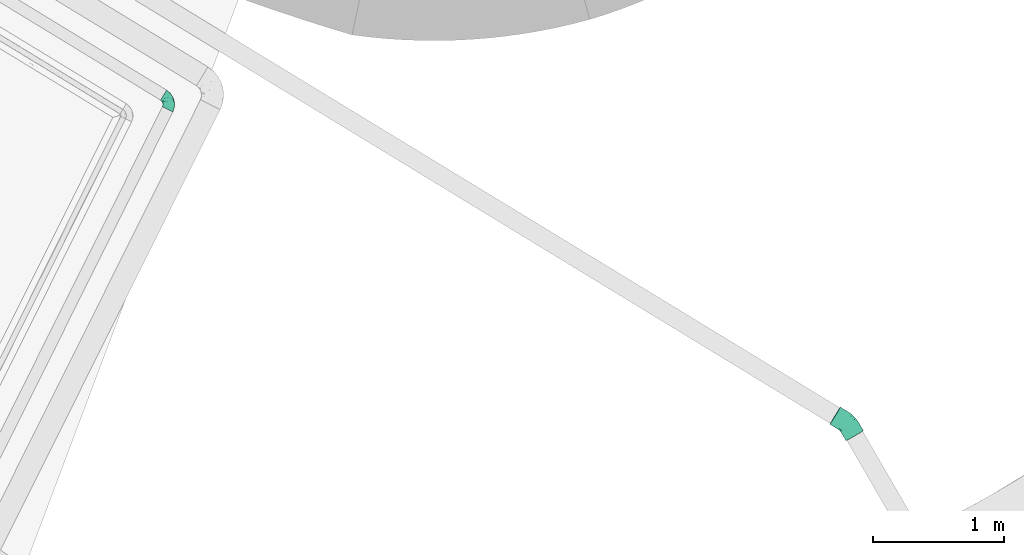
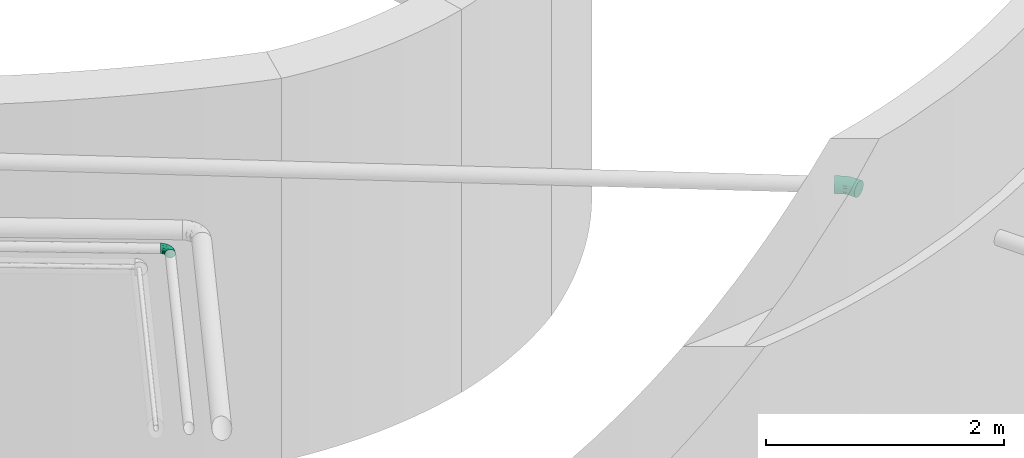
# One storey, part 41 of 47: 2 flow fittings.
"""IFC2X3 building model written with IfcOpenShell, lengths in metres."""

from ifc_helpers import new_model, entity, si_unit, converted_unit, derived_unit, direction, frame, origin, place, context, subcontext, project, spatial, faceted_brep, source, transform, mapped, type_object, type_shapes, element, save


model = new_model("IFC2X3")

# Units and contexts
model_context = context("Model", 3, precision=1e-05, world=origin(), true_north=direction((0.894925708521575, 0.446215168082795)))
context_of_model = context(None, 3, precision=1e-05, world=origin(), true_north=direction((0.894925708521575, 0.446215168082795)))
body_context = subcontext(model_context, "Body", "Model", "MODEL_VIEW")
ifc_project = project(units=[si_unit("LENGTHUNIT", "METRE"), si_unit("AREAUNIT", "SQUARE_METRE"), si_unit("VOLUMEUNIT", "CUBIC_METRE"), converted_unit("PLANEANGLEUNIT", "DEGREE", entity("IfcRatioMeasure", 0.0174532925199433), si_unit("PLANEANGLEUNIT", "RADIAN"), dimensions=[0, 0, 0, 0, 0, 0, 0]), si_unit("MASSUNIT", "GRAM", prefix="KILO"), si_unit("TIMEUNIT", "SECOND"), si_unit("FREQUENCYUNIT", "HERTZ"), si_unit("THERMODYNAMICTEMPERATUREUNIT", "DEGREE_CELSIUS"), derived_unit("THERMALTRANSMITTANCEUNIT", [(si_unit("MASSUNIT", "GRAM", prefix="KILO"), 1), (si_unit("THERMODYNAMICTEMPERATUREUNIT", "KELVIN"), -1), (si_unit("TIMEUNIT", "SECOND"), -3)]), derived_unit("VOLUMETRICFLOWRATEUNIT", [(si_unit("LENGTHUNIT", "METRE"), 3), (si_unit("TIMEUNIT", "SECOND"), -1)]), si_unit("ELECTRICCURRENTUNIT", "AMPERE"), si_unit("ELECTRICVOLTAGEUNIT", "VOLT"), si_unit("POWERUNIT", "WATT"), si_unit("FORCEUNIT", "NEWTON", prefix="KILO"), si_unit("ILLUMINANCEUNIT", "LUX"), si_unit("LUMINOUSFLUXUNIT", "LUMEN"), si_unit("LUMINOUSINTENSITYUNIT", "CANDELA"), si_unit("PRESSUREUNIT", "PASCAL")], contexts=[model_context, context_of_model])

# Site, building, storey
site_placement = place(None, frame((218.228324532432, 584.720189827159, 0.0), z_axis=(0.0, 0.0, 1.0), x_axis=(0.446215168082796, 0.894925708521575, 0.0)))
site = spatial("IfcSite", under=ifc_project, at=site_placement, Name="Default", CompositionType="ELEMENT")
building_placement = place(site_placement, origin())
building = spatial("IfcBuilding", under=site, at=building_placement, CompositionType="ELEMENT")
storey_placement = place(building_placement, frame((0.0, 0.0, 4.69)))
storey = spatial("IfcBuildingStorey", under=building, at=storey_placement, Name="1 - Piano Primo", CompositionType="ELEMENT", Elevation=4.69)

# Flow fittings
pipe_fitting_type_1 = type_object("IfcPipeFittingType", Name="Standard", PredefinedType="NOTDEFINED")
shared_shape_1 = source(origin(), body_context, "Body", "Brep", [
    faceted_brep([(-0.110478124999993, 0.019791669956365, -0.0738635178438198), (-0.110478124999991, 0.0, -0.0764691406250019), (-0.11047812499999, -0.0197916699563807, -0.0738635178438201), (-0.110478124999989, -0.0382345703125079, -0.0662242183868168), (-0.110478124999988, -0.0540718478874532, -0.0540718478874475), (-0.110478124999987, -0.0662242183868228, -0.0382345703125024), (-0.110478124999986, -0.0738635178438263, -0.0197916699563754), (-0.110478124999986, -0.0764691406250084, 0.0), (-0.110478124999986, -0.0738635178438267, 0.0197916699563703), (-0.110478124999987, -0.0662242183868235, 0.0382345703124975), (-0.110478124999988, -0.0540718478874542, 0.0540718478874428), (-0.110478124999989, -0.0382345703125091, 0.0662242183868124), (-0.11047812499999, -0.0197916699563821, 0.073863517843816), (-0.110478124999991, 0.0, 0.0764691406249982), (-0.110478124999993, 0.0197916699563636, 0.0738635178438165), (-0.110478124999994, 0.0382345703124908, 0.0662242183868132), (-0.110478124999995, 0.0540718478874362, 0.054071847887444), (-0.110478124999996, 0.0662242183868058, 0.0382345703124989), (-0.110478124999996, 0.0738635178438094, 0.0197916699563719), (-0.110478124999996, 0.0764691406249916, 0.0), (-0.110478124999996, 0.0738635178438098, -0.0197916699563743), (-0.110478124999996, 0.0662242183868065, -0.0382345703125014), (-0.110478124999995, 0.0540718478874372, -0.0540718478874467), (-0.110478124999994, 0.0382345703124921, -0.0662242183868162), (-0.0365281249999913, -0.0738635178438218, 0.0197916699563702), (-0.0365281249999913, -0.0662242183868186, 0.0382345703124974), (-0.0365281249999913, -0.0764691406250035, 0.0), (-0.0365281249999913, -0.0540718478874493, 0.0540718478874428), (-0.0365281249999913, -0.0382345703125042, 0.0662242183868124), (-0.0365281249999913, -0.0197916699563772, 0.073863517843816), (-0.0365281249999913, 0.0, 0.0764691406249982), (-0.0365281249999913, 0.0197916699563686, 0.0738635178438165), (-0.0365281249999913, 0.0382345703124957, 0.0662242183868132), (-0.0365281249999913, 0.0540718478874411, 0.054071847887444), (-0.0365281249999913, 0.0662242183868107, 0.0382345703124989), (-0.0365281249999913, 0.0738635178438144, 0.0197916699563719), (-0.0365281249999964, 0.0764691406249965, 0.0), (-0.0365281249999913, 0.0738635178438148, -0.0197916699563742), (-0.0365281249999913, 0.0662242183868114, -0.0382345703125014), (-0.0365281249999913, 0.0540718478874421, -0.0540718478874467), (-0.0365281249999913, 0.038234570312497, -0.0662242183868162), (-0.0365281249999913, 0.01979166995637, -0.0738635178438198), (-0.0365281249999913, 0.0, -0.0764691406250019), (-0.0365281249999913, -0.0197916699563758, -0.0738635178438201), (-0.0365281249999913, -0.038234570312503, -0.0662242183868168), (-0.0365281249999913, -0.0540718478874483, -0.0540718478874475), (-0.0365281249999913, -0.0662242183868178, -0.0382345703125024), (-0.0365281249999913, -0.0738635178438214, -0.0197916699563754), (-0.00564099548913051, -0.0726237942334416, 0.0157933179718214), (-0.000138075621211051, -0.073437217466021, 0.0), (0.000361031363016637, -0.0582414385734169, 0.0453266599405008), (0.0107413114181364, -0.0421761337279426, 0.0594461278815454), (0.0347092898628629, -0.0486115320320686, 0.0455822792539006), (0.0415452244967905, 9.18541766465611e-05, 0.0738635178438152), (0.0320782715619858, 0.0174725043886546, 0.0764691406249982), (0.00174528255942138, -0.00685291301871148, 0.0755764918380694), (-0.00156313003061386, -0.0270786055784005, 0.0700680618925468), (0.057942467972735, -0.0300123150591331, 0.0540718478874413), (0.0503670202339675, -0.0161043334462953, 0.066224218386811), (-0.00195628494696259, 0.0130150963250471, 0.0759940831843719), (-0.00803198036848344, 0.031537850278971, 0.0711717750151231), (0.0226113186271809, 0.0348531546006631, 0.0738635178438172), (0.0166136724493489, -0.0652341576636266, 0.026051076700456), (0.0637553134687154, -0.0406842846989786, 0.0382345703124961), (-0.0123714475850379, 0.0485769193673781, 0.0614231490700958), (-0.0159338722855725, 0.0625649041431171, 0.0474287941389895), (-0.00325287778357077, 0.0823379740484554, 0.0197916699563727), (0.00040122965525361, 0.0756292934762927, 0.0382345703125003), (-0.0200024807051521, 0.0785404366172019, 0.0), (0.0352484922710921, -0.0644250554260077, 0.0), (0.0396919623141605, -0.0610785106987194, 0.0157933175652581), (0.0686557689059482, -0.0496811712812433, 0.0), (0.067409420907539, -0.0473929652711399, 0.0197916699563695), (0.0137895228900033, 0.0510493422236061, 0.0662242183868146), (0.00621407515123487, 0.0649573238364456, 0.0540718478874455), (-0.00449922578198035, 0.0846261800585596, 0.0), (0.00174528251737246, -0.00685291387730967, -0.0755764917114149), (-0.00722864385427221, -0.0592921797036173, -0.0455822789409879), (0.0166136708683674, -0.0652341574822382, -0.0260510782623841), (0.0579424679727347, -0.0300123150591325, -0.0540718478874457), (0.0637553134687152, -0.0406842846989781, -0.0382345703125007), (0.0275415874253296, -0.051319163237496, -0.0453266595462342), (-0.00450754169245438, 0.0123653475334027, -0.0759940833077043), (-0.0159338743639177, 0.0625649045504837, -0.0474287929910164), (0.000401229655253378, 0.0756292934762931, -0.0382345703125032), (0.0320782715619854, 0.0174725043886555, -0.0764691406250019), (0.0226113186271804, 0.0348531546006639, -0.0738635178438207), (-0.0123714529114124, 0.0485769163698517, -0.0614231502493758), (0.0107413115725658, -0.0421761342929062, -0.0594461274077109), (-0.0032528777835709, 0.0823379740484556, -0.0197916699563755), (0.0415452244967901, 9.18541766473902e-05, -0.0738635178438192), (0.0503670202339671, -0.0161043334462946, -0.0662242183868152), (0.014325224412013, -0.0230321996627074, -0.0700680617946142), (-0.00803198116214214, 0.0315378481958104, -0.0711717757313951), (-0.00564099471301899, -0.0726237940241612, -0.015793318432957), (0.0674094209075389, -0.0473929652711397, -0.0197916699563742), (0.0396919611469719, -0.0610785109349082, -0.0157933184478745), (0.0137895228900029, 0.0510493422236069, -0.0662242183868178), (0.00621407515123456, 0.0649573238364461, -0.0540718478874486), (0.0711554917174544, 0.100329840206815, -0.0540718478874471), (0.0653426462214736, 0.111001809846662, -0.0382345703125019), (0.0616885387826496, 0.117710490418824, -0.0197916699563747), (0.0604421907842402, 0.119998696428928, 0.0), (0.0616885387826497, 0.117710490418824, 0.0197916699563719), (0.0653426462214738, 0.111001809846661, 0.0382345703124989), (0.0711554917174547, 0.100329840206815, 0.054071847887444), (0.0787309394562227, 0.0864218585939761, 0.0662242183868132), (0.0875527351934, 0.0702256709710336, 0.0738635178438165), (0.0970196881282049, 0.0528450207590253, 0.0764691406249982), (0.10648664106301, 0.0354643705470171, 0.073863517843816), (0.115308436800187, 0.0192681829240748, 0.0662242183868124), (0.122883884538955, 0.00536020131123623, 0.0540718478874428), (0.128696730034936, -0.00531176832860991, 0.0382345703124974), (0.132350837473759, -0.0120204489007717, 0.0197916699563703), (0.133597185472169, -0.0143086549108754, 0.0), (0.132350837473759, -0.0120204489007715, -0.019791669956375), (0.128696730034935, -0.00531176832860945, -0.038234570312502), (0.122883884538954, 0.0053602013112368, -0.0540718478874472), (0.115308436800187, 0.0192681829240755, -0.0662242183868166), (0.106486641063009, 0.0354643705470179, -0.07386351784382), (0.0970196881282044, 0.0528450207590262, -0.0764691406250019), (0.0875527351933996, 0.0702256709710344, -0.0738635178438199), (0.0787309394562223, 0.0864218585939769, -0.0662242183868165)], [[[0, 1, 2, 3, 4, 5, 6, 7, 8, 9, 10, 11, 12, 13, 14, 15, 16, 17, 18, 19, 20, 21, 22, 23]], [[8, 24, 25, 9]], [[26, 24, 8, 7]], [[11, 10, 27, 28]], [[27, 10, 9, 25]], [[29, 12, 11, 28]], [[29, 30, 13, 12]], [[15, 14, 31, 32]], [[33, 16, 15, 32]], [[18, 17, 34, 35]], [[33, 34, 17, 16]], [[19, 18, 35, 36]], [[31, 14, 13, 30]], [[20, 19, 36, 37]], [[38, 21, 20, 37]], [[23, 22, 39, 40]], [[38, 39, 22, 21]], [[0, 23, 40, 41]], [[41, 42, 1, 0]], [[3, 2, 43, 44]], [[45, 4, 3, 44]], [[6, 5, 46, 47]], [[45, 46, 5, 4]], [[7, 6, 47, 26]], [[43, 2, 1, 42]], [[48, 25, 24]], [[48, 26, 49]], [[27, 25, 50]], [[51, 50, 52]], [[27, 51, 28]], [[27, 50, 51]], [[53, 54, 55]], [[56, 55, 29]], [[55, 30, 29]], [[29, 28, 56]], [[57, 58, 51]], [[59, 30, 55]], [[60, 32, 31]], [[60, 59, 61]], [[52, 62, 63]], [[28, 51, 56]], [[64, 33, 32]], [[59, 60, 31]], [[65, 34, 33]], [[66, 35, 34, 67]], [[58, 56, 51]], [[35, 68, 36]], [[30, 59, 31]], [[48, 49, 69, 70]], [[25, 62, 50]], [[56, 58, 53]], [[55, 56, 53]], [[25, 48, 62]], [[59, 54, 61]], [[26, 48, 24]], [[48, 70, 62]], [[57, 52, 63]], [[71, 72, 70]], [[63, 70, 72]], [[73, 74, 64]], [[66, 68, 35]], [[63, 62, 70]], [[75, 68, 66]], [[60, 64, 32]], [[64, 65, 33]], [[64, 74, 65]], [[62, 52, 50]], [[65, 74, 67]], [[34, 65, 67]], [[60, 73, 64]], [[55, 54, 59]], [[51, 52, 57]], [[69, 71, 70]], [[61, 73, 60]], [[42, 76, 43]], [[77, 78, 46]], [[79, 80, 81]], [[42, 82, 76]], [[83, 38, 84]], [[85, 82, 86]], [[87, 39, 83]], [[88, 81, 77]], [[37, 89, 84, 38]], [[90, 91, 92]], [[44, 92, 88]], [[93, 41, 40]], [[26, 47, 94]], [[46, 94, 47]], [[26, 94, 49]], [[88, 45, 44]], [[82, 93, 86]], [[95, 71, 96]], [[46, 45, 77]], [[43, 92, 44]], [[93, 87, 97]], [[87, 83, 98]], [[38, 83, 39]], [[37, 36, 68]], [[68, 75, 89]], [[80, 96, 78]], [[80, 78, 81]], [[98, 83, 84]], [[46, 78, 94]], [[97, 86, 93]], [[43, 76, 92]], [[42, 41, 82]], [[39, 87, 40]], [[93, 82, 41]], [[82, 85, 76]], [[90, 92, 76]], [[91, 88, 92]], [[88, 79, 81]], [[91, 79, 88]], [[93, 40, 87]], [[85, 90, 76]], [[69, 49, 94, 96]], [[78, 77, 81]], [[69, 96, 71]], [[96, 80, 95]], [[98, 97, 87]], [[88, 77, 45]], [[37, 68, 89]], [[96, 94, 78]], [[99, 100, 101, 102, 103, 104, 105, 106, 107, 108, 109, 110, 111, 112, 113, 114, 115, 116, 117, 118, 119, 120, 121, 122]], [[72, 113, 112, 63]], [[114, 113, 72, 71]], [[58, 57, 111, 110]], [[111, 57, 63, 112]], [[109, 53, 58, 110]], [[109, 108, 54, 53]], [[73, 61, 107, 106]], [[105, 74, 73, 106]], [[66, 67, 104, 103]], [[105, 104, 67, 74]], [[75, 66, 103, 102]], [[107, 61, 54, 108]], [[101, 89, 75, 102]], [[100, 84, 89, 101]], [[122, 121, 86, 97]], [[100, 99, 98, 84]], [[99, 122, 97, 98]], [[121, 120, 85, 86]], [[91, 90, 119, 118]], [[117, 79, 91, 118]], [[95, 80, 116, 115]], [[117, 116, 80, 79]], [[71, 95, 115, 114]], [[119, 90, 85, 120]]]),
])
type_shapes(pipe_fitting_type_1, [shared_shape_1])
flow_fitting_1_placement = place(storey_placement, frame((66.2110853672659, -10.1269555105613, 3.30053942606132), z_axis=(-0.0059028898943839, -0.0170146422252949, 0.999837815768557), x_axis=(0.550740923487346, 0.834493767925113, 0.0174524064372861)))
element("IfcFlowFitting", 1, at=flow_fitting_1_placement, inside=storey, type_object=pipe_fitting_type_1, Name="M_Gomito - PVC - Sch 40:Standard", ObjectType="Standard", context=body_context, shape_type="MappedRepresentation", body=[
    mapped(shared_shape_1, transform((0.0, 0.0, 0.0), scale=1.0)),
])
pipe_fitting_type_2 = type_object("IfcPipeFittingType", Name="Standard", PredefinedType="NOTDEFINED")
shared_shape_2 = source(origin(), body_context, "Body", "Brep", [
    faceted_brep([(-0.0759999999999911, 0.0222249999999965, -0.0384948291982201), (-0.0759999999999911, 0.0115045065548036, -0.0429354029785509), (-0.0759999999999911, 0.0, -0.0444500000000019), (-0.075999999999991, -0.0115045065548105, -0.042935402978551), (-0.075999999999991, -0.0222250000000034, -0.0384948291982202), (-0.075999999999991, -0.0314308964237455, -0.031430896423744), (-0.075999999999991, -0.0384948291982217, -0.022225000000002), (-0.075999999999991, -0.0429354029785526, -0.011504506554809), (-0.075999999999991, -0.0444500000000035, 0.0), (-0.075999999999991, -0.0429354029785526, 0.011504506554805), (-0.075999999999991, -0.0384948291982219, 0.022224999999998), (-0.075999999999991, -0.0314308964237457, 0.0314308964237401), (-0.075999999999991, -0.0222250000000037, 0.0384948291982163), (-0.075999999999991, -0.0115045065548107, 0.0429354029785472), (-0.0759999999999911, 0.0, 0.0444499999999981), (-0.0759999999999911, 0.0115045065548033, 0.0429354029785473), (-0.0759999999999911, 0.0222249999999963, 0.0384948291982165), (-0.0759999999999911, 0.0314308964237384, 0.0314308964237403), (-0.0759999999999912, 0.0384948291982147, 0.0222249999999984), (-0.0759999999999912, 0.0429354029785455, 0.0115045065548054), (-0.0759999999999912, 0.0444499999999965, 0.0), (-0.0759999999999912, 0.0429354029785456, -0.0115045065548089), (-0.0759999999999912, 0.0384948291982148, -0.0222250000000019), (-0.0759999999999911, 0.0314308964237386, -0.0314308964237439), (0.00641605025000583, 0.0757286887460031, -0.0444500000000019), (-0.00504738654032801, 0.0766999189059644, -0.0429354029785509), (-0.0157296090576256, 0.0776049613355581, -0.0384948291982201), (-0.0249026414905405, 0.0783821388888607, -0.0314308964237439), (-0.0319413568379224, 0.0789784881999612, -0.0222250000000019), (-0.0363660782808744, 0.079353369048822, -0.0115045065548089), (-0.037875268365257, 0.0794812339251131, 0.0), (-0.0363660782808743, 0.079353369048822, 0.0115045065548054), (-0.0319413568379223, 0.0789784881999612, 0.0222249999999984), (-0.0249026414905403, 0.0783821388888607, 0.0314308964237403), (-0.0157296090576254, 0.0776049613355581, 0.0384948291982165), (-0.00504738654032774, 0.0766999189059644, 0.0429354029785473), (0.0064160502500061, 0.075728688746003, 0.0444499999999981), (0.01787948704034, 0.0747574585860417, 0.0429354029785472), (0.0285617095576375, 0.073852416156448, 0.0384948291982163), (0.0377347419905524, 0.0730752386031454, 0.0314308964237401), (0.0447734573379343, 0.0724788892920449, 0.022224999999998), (0.0491981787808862, 0.0721040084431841, 0.011504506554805), (0.0507073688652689, 0.071976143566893, 0.0), (0.0491981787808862, 0.0721040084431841, -0.011504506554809), (0.0447734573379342, 0.0724788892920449, -0.022225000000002), (0.0377347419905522, 0.0730752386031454, -0.031430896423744), (0.0285617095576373, 0.073852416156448, -0.0384948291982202), (0.0178794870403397, 0.0747574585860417, -0.042935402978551), (-0.0493572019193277, -0.0393276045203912, 0.0139568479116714), (-0.0538708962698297, -0.0347401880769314, 0.0249212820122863), (-0.0387548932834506, -0.0388732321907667, 0.0), (-0.0541008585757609, -0.0411710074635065, 0.0), (-0.0112798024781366, -0.0201342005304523, 0.0216811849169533), (-0.00937158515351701, -0.0132609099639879, 0.0284867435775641), (-0.0270735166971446, -0.0207838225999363, 0.0310922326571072), (-0.0556085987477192, 0.0057884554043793, 0.044339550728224), (-0.0512004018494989, 0.0183549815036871, 0.042272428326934), (-0.053696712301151, -0.0170063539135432, 0.0399589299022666), (-0.0264886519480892, -0.0124540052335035, 0.0370466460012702), (-0.0358357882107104, -0.00175365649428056, 0.0431138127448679), (0.0233007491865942, 0.02403002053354, 0.0301817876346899), (0.0146457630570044, 0.0253427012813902, 0.0370466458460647), (0.0130361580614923, 0.00598666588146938, 0.027626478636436), (-0.0463429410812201, -0.0258019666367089, 0.03299779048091), (-0.0310015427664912, -0.0355819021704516, 0.00726969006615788), (-0.0187488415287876, -0.0291753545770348, 0.0113666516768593), (-0.0337866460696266, -0.0342232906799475, 0.0156349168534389), (0.0296222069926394, 0.0439992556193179, 0.0329977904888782), (-0.0481265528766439, 0.031144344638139, 0.0373539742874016), (-0.0634426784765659, 0.0269582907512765, 0.0363648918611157), (-0.00107321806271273, 0.0558987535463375, 0.0443395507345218), (-0.0139670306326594, 0.0525671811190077, 0.0422724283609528), (-0.00679661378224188, 0.0219241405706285, 0.0434450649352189), (-0.0148523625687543, 0.00618224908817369, 0.0417534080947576), (0.0012239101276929, 0.0176833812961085, 0.0405330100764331), (-0.0587449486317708, 0.0366898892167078, 0.0291449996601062), (-0.0572983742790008, -0.00616623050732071, 0.0437034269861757), (-0.011173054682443, 0.0377452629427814, 0.0442859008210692), (-0.0268687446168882, 0.0292414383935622, 0.043288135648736), (-0.0209018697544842, 0.0161679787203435, 0.0442972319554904), (-0.0595178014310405, 0.046945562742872, 0.00991331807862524), (-0.0613776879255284, 0.042727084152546, 0.0190998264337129), (-0.0315995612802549, 0.0616326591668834, 0.0291449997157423), (-0.041328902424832, 0.0449785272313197, 0.0313934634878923), (-0.0492911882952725, 0.0457178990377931, 0.0245070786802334), (-0.0394404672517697, 0.0535883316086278, 0.0261143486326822), (-0.0376829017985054, 0.0140824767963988, 0.0442595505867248), (0.0214788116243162, 0.0520693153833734, 0.0399589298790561), (-0.00288191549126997, 0.00313640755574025, 0.036508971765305), (0.0391640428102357, 0.0507457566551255, 0.0249212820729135), (0.0304657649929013, 0.0246010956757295, 0.0220755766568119), (0.0433540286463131, 0.0458608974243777, 0.0139568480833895), (-0.0270852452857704, -0.0282801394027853, 0.022075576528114), (-0.00104376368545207, -0.0167851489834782, 0.014951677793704), (-0.00477661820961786, -0.0226320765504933, 0.0), (0.0109814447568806, 0.0565732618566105, 0.043703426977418), (0.0286262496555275, 0.011989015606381, 0.00877499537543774), (0.0381770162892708, 0.028684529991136, 0.00863646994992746), (0.0455913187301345, 0.0504319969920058, 0.0), (-0.0493853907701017, 0.0544919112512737, 0.00683590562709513), (-0.0578103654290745, 0.0490502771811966, 0.0), (0.00392792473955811, -0.00811251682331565, 0.0226032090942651), (0.0188794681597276, 0.00230547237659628, 0.0155108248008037), (-0.0439947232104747, 0.0617448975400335, 0.0), (-0.0412436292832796, 0.0642851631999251, 0.00972692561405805), (-0.0479251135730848, 0.0521572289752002, 0.0166413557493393), (-0.0373929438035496, 0.0647656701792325, 0.0190998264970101), (-0.0269702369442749, 0.0505840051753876, 0.0373539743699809), (-0.0215061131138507, 0.0654920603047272, 0.036364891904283), (-0.0366952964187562, 0.0399357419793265, 0.0370089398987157), (-0.0370528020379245, 0.0305825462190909, 0.0407999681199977), (0.0229545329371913, 0.00284892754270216, 0.0), (0.0324803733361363, 0.0190918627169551, 0.0), (0.0047727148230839, 0.035559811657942, 0.0431138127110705), (0.00908895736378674, -0.00989157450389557, 0.0), (0.0191199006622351, -0.000691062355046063, 0.00760485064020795), (0.0420062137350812, 0.0353347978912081, 0.0), (-0.0217657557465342, -0.03075265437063, 0.0), (-0.0481265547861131, 0.0311443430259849, -0.0373539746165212), (-0.033352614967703, 0.0362978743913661, -0.0398562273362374), (-0.0512004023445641, 0.0183549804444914, -0.0422724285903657), (-0.0613776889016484, 0.0427270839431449, -0.0190998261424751), (-0.0556085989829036, 0.0057884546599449, -0.0443395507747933), (-0.0315995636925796, 0.0616326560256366, -0.0291449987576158), (-0.0373929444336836, 0.0647656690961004, -0.0190998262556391), (-0.060573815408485, 0.0465234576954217, -0.00972692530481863), (-0.0269702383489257, 0.050584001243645, -0.0373539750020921), (-0.0139670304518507, 0.0525671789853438, -0.0422724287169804), (-0.0479251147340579, 0.0521572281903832, -0.0166413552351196), (-0.00107321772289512, 0.0558987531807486, -0.0443395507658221), (-0.0587449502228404, 0.036689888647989, -0.0291449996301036), (-0.0463429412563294, -0.0258019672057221, -0.0329977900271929), (-0.0108509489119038, 0.0387372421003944, -0.044259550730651), (-0.0634426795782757, 0.0269582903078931, -0.0363648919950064), (-0.0493572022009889, -0.0393276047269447, -0.0139568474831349), (-0.0538708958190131, -0.0347401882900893, -0.0249212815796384), (-0.0264886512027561, -0.012454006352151, -0.0370466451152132), (-0.00288191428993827, 0.00313640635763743, -0.0365089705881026), (-0.0093715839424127, -0.0132609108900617, -0.0284867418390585), (-0.0358357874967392, -0.00175365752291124, -0.0431138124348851), (-0.0536967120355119, -0.0170063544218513, -0.0399589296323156), (-0.0270757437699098, -0.0330311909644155, -0.0114626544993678), (-0.0270852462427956, -0.0282801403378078, -0.0220755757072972), (-0.0366672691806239, 0.0143196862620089, -0.0442859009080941), (-0.0572983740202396, -0.00616623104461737, -0.0437034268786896), (-0.0417533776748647, 0.0632685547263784, -0.00991331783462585), (-0.0501281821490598, 0.0538093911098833, -0.00683590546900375), (-0.00490631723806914, 0.0153212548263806, -0.0417534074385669), (-0.0177235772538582, 0.000273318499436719, -0.0405330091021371), (0.0214788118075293, 0.0520693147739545, -0.0399589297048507), (-0.0413934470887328, 0.0529748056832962, -0.0245070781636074), (-0.0413289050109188, 0.0449785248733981, -0.0313934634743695), (-0.0272974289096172, -0.0221507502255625, -0.0298800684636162), (-0.011279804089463, -0.0201342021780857, -0.0216811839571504), (0.0433540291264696, 0.0458608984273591, -0.0139568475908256), (0.0391640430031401, 0.0507457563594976, -0.024921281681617), (0.0109814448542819, 0.0565732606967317, -0.0437034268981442), (-0.0215061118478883, 0.0654920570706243, -0.0363648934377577), (0.0146457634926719, 0.0253427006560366, -0.0370466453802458), (0.00477271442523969, 0.0355598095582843, -0.0431138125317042), (0.0296222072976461, 0.0439992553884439, -0.0329977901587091), (-0.0212720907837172, 0.00862322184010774, -0.0434450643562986), (0.0286262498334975, 0.0119890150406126, -0.00877499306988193), (0.022951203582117, 0.0239782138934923, -0.0304757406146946), (0.0188794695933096, 0.00230547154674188, -0.0155108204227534), (0.030465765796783, 0.024601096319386, -0.0220755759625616), (-0.0500673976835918, 0.0438236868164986, -0.0261143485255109), (-0.0268687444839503, 0.0292414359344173, -0.0432881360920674), (-0.014345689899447, 0.0221921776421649, -0.0442972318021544), (-0.0147657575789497, -0.02583909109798, -0.0147839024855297), (0.0130361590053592, 0.00598666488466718, -0.0276264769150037), (-0.00104376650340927, -0.0167851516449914, -0.0149516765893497), (0.00392792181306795, -0.00811252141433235, -0.0226032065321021), (0.0191199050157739, -0.00069105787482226, -0.00760484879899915), (0.0381770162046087, 0.028684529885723, -0.008636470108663)], [[[0, 1, 2, 3, 4, 5, 6, 7, 8, 9, 10, 11, 12, 13, 14, 15, 16, 17, 18, 19, 20, 21, 22, 23]], [[24, 25, 26, 27, 28, 29, 30, 31, 32, 33, 34, 35, 36, 37, 38, 39, 40, 41, 42, 43, 44, 45, 46, 47]], [[48, 49, 10]], [[50, 48, 51]], [[52, 53, 54]], [[48, 10, 9]], [[9, 51, 48]], [[15, 55, 56]], [[11, 10, 49]], [[57, 58, 59]], [[60, 61, 62]], [[63, 12, 11]], [[63, 57, 12]], [[64, 65, 66]], [[67, 39, 38]], [[68, 69, 56]], [[70, 35, 71]], [[15, 56, 16]], [[72, 73, 74]], [[75, 18, 17]], [[13, 76, 14]], [[77, 78, 79]], [[80, 19, 81]], [[81, 19, 18]], [[33, 32, 82]], [[20, 19, 80]], [[75, 83, 84]], [[84, 83, 85]], [[83, 75, 68]], [[56, 55, 86]], [[38, 87, 67]], [[53, 88, 58]], [[89, 90, 91]], [[92, 52, 54]], [[93, 65, 94]], [[36, 95, 37]], [[59, 86, 55]], [[36, 35, 70]], [[58, 57, 63]], [[91, 41, 40]], [[40, 39, 89]], [[89, 91, 40]], [[96, 97, 90]], [[91, 98, 41]], [[76, 57, 59]], [[49, 92, 63]], [[87, 38, 37]], [[99, 100, 80]], [[101, 102, 62]], [[103, 104, 30]], [[12, 57, 13]], [[104, 105, 106]], [[15, 14, 55]], [[107, 78, 71]], [[82, 107, 108]], [[31, 106, 32]], [[71, 77, 70]], [[108, 34, 33]], [[71, 35, 34]], [[67, 87, 61]], [[109, 110, 107]], [[111, 112, 96]], [[58, 88, 73]], [[54, 58, 63]], [[95, 87, 37]], [[73, 88, 74]], [[113, 61, 87]], [[61, 88, 62]], [[17, 16, 69]], [[81, 84, 105]], [[75, 17, 69]], [[56, 86, 110]], [[82, 32, 106]], [[107, 82, 83]], [[109, 83, 68]], [[108, 71, 34]], [[77, 71, 78]], [[95, 70, 113]], [[76, 55, 14]], [[59, 79, 86]], [[49, 48, 66]], [[63, 11, 49]], [[39, 67, 89]], [[90, 89, 67]], [[93, 52, 65]], [[62, 88, 53]], [[93, 114, 115]], [[62, 102, 90]], [[101, 53, 52]], [[62, 90, 60]], [[111, 96, 115]], [[91, 97, 116]], [[96, 102, 115]], [[97, 96, 112]], [[90, 102, 96]], [[116, 97, 112]], [[90, 97, 91]], [[70, 95, 36]], [[87, 95, 113]], [[57, 76, 13]], [[55, 76, 59]], [[117, 65, 64]], [[75, 81, 18]], [[80, 81, 105]], [[105, 104, 99]], [[80, 100, 20]], [[104, 106, 31]], [[84, 85, 105]], [[30, 104, 31]], [[104, 103, 99]], [[78, 110, 86]], [[113, 70, 77]], [[73, 79, 59]], [[77, 79, 72]], [[9, 8, 51]], [[98, 91, 116]], [[98, 42, 41]], [[78, 86, 79]], [[75, 84, 81]], [[83, 82, 85]], [[82, 106, 85]], [[105, 85, 106]], [[58, 73, 59]], [[88, 61, 74]], [[61, 113, 74]], [[72, 74, 113]], [[77, 72, 113]], [[73, 72, 79]], [[100, 99, 103]], [[105, 99, 80]], [[102, 93, 115]], [[56, 69, 16]], [[114, 93, 94]], [[114, 111, 115]], [[75, 69, 68]], [[82, 108, 33]], [[71, 108, 107]], [[110, 109, 68]], [[107, 83, 109]], [[56, 110, 68]], [[107, 110, 78]], [[92, 54, 63]], [[53, 58, 54]], [[65, 52, 92]], [[101, 52, 93]], [[102, 101, 93]], [[62, 53, 101]], [[90, 67, 60]], [[61, 60, 67]], [[66, 65, 92]], [[94, 65, 117]], [[49, 66, 92]], [[64, 48, 50]], [[48, 64, 66]], [[50, 117, 64]], [[118, 119, 120]], [[21, 121, 22]], [[2, 1, 122]], [[123, 124, 28]], [[1, 0, 120]], [[122, 1, 120]], [[100, 125, 20]], [[119, 126, 127]], [[125, 128, 121]], [[25, 129, 127]], [[22, 130, 23]], [[131, 5, 4]], [[127, 129, 132]], [[133, 0, 23]], [[6, 134, 7]], [[6, 5, 135]], [[134, 51, 7]], [[136, 137, 138]], [[134, 6, 135]], [[139, 136, 140]], [[141, 134, 142]], [[140, 4, 3]], [[120, 143, 122]], [[43, 42, 98]], [[144, 3, 2]], [[142, 134, 135]], [[130, 118, 133]], [[131, 140, 136]], [[145, 146, 103]], [[147, 137, 148]], [[30, 29, 145]], [[46, 149, 47]], [[150, 123, 151]], [[152, 136, 138]], [[153, 152, 138]], [[27, 123, 28]], [[127, 26, 25]], [[154, 155, 44]], [[24, 47, 156]], [[126, 157, 127]], [[152, 153, 142]], [[126, 151, 123]], [[149, 158, 159]], [[46, 160, 149]], [[140, 131, 4]], [[161, 147, 148]], [[145, 29, 124]], [[112, 111, 162]], [[45, 44, 155]], [[160, 46, 45]], [[154, 43, 98]], [[163, 158, 160]], [[154, 98, 116]], [[164, 165, 162]], [[25, 24, 129]], [[43, 154, 44]], [[150, 151, 166]], [[143, 167, 168]], [[155, 165, 160]], [[29, 28, 124]], [[144, 140, 3]], [[94, 117, 169]], [[158, 149, 160]], [[156, 149, 159]], [[163, 165, 170]], [[158, 137, 147]], [[130, 22, 121]], [[118, 130, 151]], [[151, 126, 119]], [[133, 120, 0]], [[27, 26, 157]], [[124, 150, 128]], [[123, 27, 157]], [[119, 127, 167]], [[143, 120, 167]], [[144, 122, 139]], [[156, 129, 24]], [[159, 168, 132]], [[5, 131, 135]], [[142, 135, 131]], [[165, 155, 154]], [[160, 45, 155]], [[137, 170, 138]], [[171, 172, 164]], [[153, 172, 171]], [[173, 114, 171]], [[158, 170, 137]], [[170, 165, 164]], [[112, 162, 174]], [[173, 164, 162]], [[174, 116, 112]], [[162, 111, 173]], [[174, 165, 154]], [[165, 174, 162]], [[116, 174, 154]], [[122, 144, 2]], [[140, 144, 139]], [[149, 156, 47]], [[129, 156, 159]], [[169, 117, 141]], [[134, 141, 50]], [[145, 124, 128]], [[128, 125, 146]], [[145, 103, 30]], [[125, 121, 21]], [[150, 166, 128]], [[20, 125, 21]], [[125, 100, 146]], [[132, 167, 127]], [[139, 122, 143]], [[147, 168, 159]], [[143, 168, 161]], [[51, 134, 50]], [[51, 8, 7]], [[159, 132, 129]], [[167, 132, 168]], [[123, 150, 124]], [[151, 130, 166]], [[130, 121, 166]], [[128, 166, 121]], [[158, 147, 159]], [[137, 136, 148]], [[136, 139, 148]], [[161, 148, 139]], [[143, 161, 139]], [[147, 161, 168]], [[103, 146, 100]], [[128, 146, 145]], [[114, 94, 171]], [[171, 164, 173]], [[173, 111, 114]], [[130, 133, 23]], [[120, 133, 118]], [[127, 157, 26]], [[123, 157, 126]], [[120, 119, 167]], [[151, 119, 118]], [[142, 131, 152]], [[136, 152, 131]], [[172, 153, 138]], [[169, 153, 171]], [[138, 170, 172]], [[164, 172, 170]], [[165, 163, 160]], [[170, 158, 163]], [[142, 153, 169]], [[50, 141, 117]], [[94, 169, 171]], [[142, 169, 141]]]),
])
type_shapes(pipe_fitting_type_2, [shared_shape_2])
flow_fitting_2_placement = place(storey_placement, frame((66.1170273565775, -4.42607899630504, 2.96)))
element("IfcFlowFitting", 2, at=flow_fitting_2_placement, inside=storey, type_object=pipe_fitting_type_2, Name="M_Gomito - Saldato - Generico:Standard", ObjectType="Standard", context=body_context, shape_type="MappedRepresentation", body=[
    mapped(shared_shape_2, transform((0.0, 0.0, 0.0), scale=1.0)),
])

save(model, "model.ifc")
